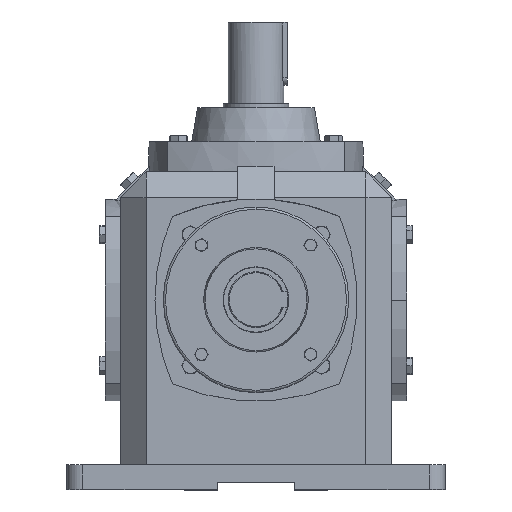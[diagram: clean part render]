
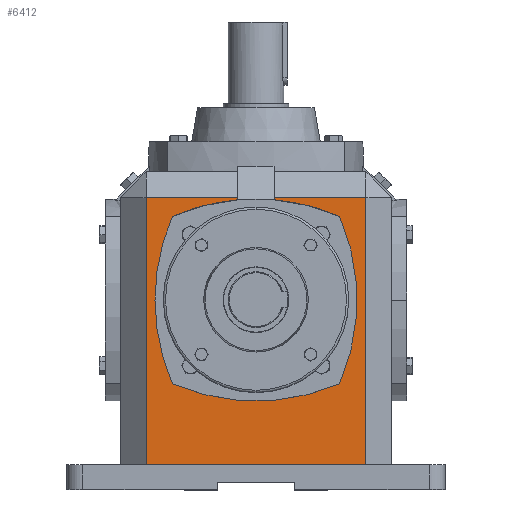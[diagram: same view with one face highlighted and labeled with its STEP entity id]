
A CAD part, top view. The second image highlights one B-rep face of the part: STEP entity #6412.
In plain terms, the highlighted planar face has unit normal (0, 0, 1).
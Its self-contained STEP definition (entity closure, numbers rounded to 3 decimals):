
#60 = VECTOR ( 'NONE', #8926, 1000. ) ;
#177 = EDGE_CURVE ( 'NONE', #1978, #12997, #16885, .T. ) ;
#341 = CARTESIAN_POINT ( 'NONE',  ( 142.2, -213., 175.5 ) ) ;
#706 = CARTESIAN_POINT ( 'NONE',  ( 0., 140., 175.5 ) ) ;
#1119 = DIRECTION ( 'NONE',  ( 0., 0., 1. ) ) ;
#1275 = ORIENTED_EDGE ( 'NONE', *, *, #12081, .F. ) ;
#1533 = CARTESIAN_POINT ( 'NONE',  ( -130.7, 0., 175.5 ) ) ;
#1925 = ORIENTED_EDGE ( 'NONE', *, *, #2854, .T. ) ;
#1951 = LINE ( 'NONE', #16652, #6652 ) ;
#1978 = VERTEX_POINT ( 'NONE', #341 ) ;
#1984 = AXIS2_PLACEMENT_3D ( 'NONE', #16746, #1119, #14141 ) ;
#2233 = DIRECTION ( 'NONE',  ( 0., -1., 0. ) ) ;
#2279 = ORIENTED_EDGE ( 'NONE', *, *, #6815, .T. ) ;
#2368 = VECTOR ( 'NONE', #10579, 1000. ) ;
#2813 = AXIS2_PLACEMENT_3D ( 'NONE', #16264, #11933, #13343 ) ;
#2854 = EDGE_CURVE ( 'NONE', #7943, #15751, #1951, .T. ) ;
#3204 = ORIENTED_EDGE ( 'NONE', *, *, #6566, .T. ) ;
#3671 = LINE ( 'NONE', #6288, #6554 ) ;
#3746 = VERTEX_POINT ( 'NONE', #18684 ) ;
#3778 = CARTESIAN_POINT ( 'NONE',  ( -108.155, -108.155, 175.5 ) ) ;
#3862 = AXIS2_PLACEMENT_3D ( 'NONE', #11461, #14411, #8753 ) ;
#4083 = CARTESIAN_POINT ( 'NONE',  ( 23.31, 129.695, 175.5 ) ) ;
#4194 = VERTEX_POINT ( 'NONE', #3778 ) ;
#4199 = DIRECTION ( 'NONE',  ( -1., 0., 0. ) ) ;
#4220 = CARTESIAN_POINT ( 'NONE',  ( -175.5, 132.7, 175.5 ) ) ;
#4293 = VERTEX_POINT ( 'NONE', #4083 ) ;
#4299 = AXIS2_PLACEMENT_3D ( 'NONE', #17282, #15705, #4199 ) ;
#4478 = EDGE_CURVE ( 'NONE', #3746, #4293, #11910, .T. ) ;
#4720 = VERTEX_POINT ( 'NONE', #1533 ) ;
#5010 = ORIENTED_EDGE ( 'NONE', *, *, #14087, .F. ) ;
#5537 = CARTESIAN_POINT ( 'NONE',  ( -175.5, 132.7, 175.5 ) ) ;
#5559 = CIRCLE ( 'NONE', #3862, 270.7 ) ;
#5692 = CARTESIAN_POINT ( 'NONE',  ( 0., -140., 175.5 ) ) ;
#5773 = CARTESIAN_POINT ( 'NONE',  ( -140., 0., 175.5 ) ) ;
#5873 = ORIENTED_EDGE ( 'NONE', *, *, #15202, .T. ) ;
#6288 = CARTESIAN_POINT ( 'NONE',  ( -175.5, -213., 175.5 ) ) ;
#6362 = LINE ( 'NONE', #4220, #60 ) ;
#6412 = ADVANCED_FACE ( 'NONE', ( #13620 ), #12929, .F. ) ;
#6554 = VECTOR ( 'NONE', #13478, 1000. ) ;
#6566 = EDGE_CURVE ( 'NONE', #15751, #1978, #3671, .T. ) ;
#6651 = VERTEX_POINT ( 'NONE', #13547 ) ;
#6652 = VECTOR ( 'NONE', #2233, 1000. ) ;
#6815 = EDGE_CURVE ( 'NONE', #12997, #3746, #11371, .T. ) ;
#6898 = CARTESIAN_POINT ( 'NONE',  ( -23.31, 166., 175.5 ) ) ;
#6920 = VERTEX_POINT ( 'NONE', #10482 ) ;
#7379 = EDGE_CURVE ( 'NONE', #4194, #6651, #18304, .T. ) ;
#7524 = CARTESIAN_POINT ( 'NONE',  ( 142.2, 132.7, 175.5 ) ) ;
#7609 = ORIENTED_EDGE ( 'NONE', *, *, #4478, .T. ) ;
#7689 = VECTOR ( 'NONE', #11665, 1000. ) ;
#7827 = AXIS2_PLACEMENT_3D ( 'NONE', #5773, #10358, #15935 ) ;
#7943 = VERTEX_POINT ( 'NONE', #18409 ) ;
#7949 = CARTESIAN_POINT ( 'NONE',  ( -108.155, 108.155, 175.5 ) ) ;
#8736 = VERTEX_POINT ( 'NONE', #8940 ) ;
#8753 = DIRECTION ( 'NONE',  ( 1., 0., 0. ) ) ;
#8789 = CARTESIAN_POINT ( 'NONE',  ( 23.31, 166., 175.5 ) ) ;
#8792 = DIRECTION ( 'NONE',  ( 0., 1., 0. ) ) ;
#8800 = DIRECTION ( 'NONE',  ( 1., 0., 0. ) ) ;
#8926 = DIRECTION ( 'NONE',  ( -1., 0., 0. ) ) ;
#8940 = CARTESIAN_POINT ( 'NONE',  ( 108.155, 108.155, 175.5 ) ) ;
#9196 = CIRCLE ( 'NONE', #16477, 270.7 ) ;
#9402 = DIRECTION ( 'NONE',  ( 1., 0., 0. ) ) ;
#9465 = DIRECTION ( 'NONE',  ( 0., 0., 1. ) ) ;
#9551 = VERTEX_POINT ( 'NONE', #9844 ) ;
#9844 = CARTESIAN_POINT ( 'NONE',  ( -23.31, 132.7, 175.5 ) ) ;
#9973 = EDGE_CURVE ( 'NONE', #6920, #16852, #9196, .T. ) ;
#10122 = VECTOR ( 'NONE', #12772, 1000. ) ;
#10204 = EDGE_CURVE ( 'NONE', #4720, #4194, #5559, .T. ) ;
#10358 = DIRECTION ( 'NONE',  ( 0., 0., 1. ) ) ;
#10482 = CARTESIAN_POINT ( 'NONE',  ( -23.31, 129.695, 175.5 ) ) ;
#10579 = DIRECTION ( 'NONE',  ( 0., -1., 0. ) ) ;
#11046 = EDGE_CURVE ( 'NONE', #6651, #8736, #15900, .T. ) ;
#11269 = LINE ( 'NONE', #6898, #10122 ) ;
#11371 = LINE ( 'NONE', #5537, #7689 ) ;
#11461 = CARTESIAN_POINT ( 'NONE',  ( 140., 0., 175.5 ) ) ;
#11542 = CIRCLE ( 'NONE', #1984, 270.7 ) ;
#11665 = DIRECTION ( 'NONE',  ( -1., 0., 0. ) ) ;
#11910 = LINE ( 'NONE', #8789, #2368 ) ;
#11933 = DIRECTION ( 'NONE',  ( 0., 0., 1. ) ) ;
#12081 = EDGE_CURVE ( 'NONE', #16852, #4720, #15173, .T. ) ;
#12122 = ORIENTED_EDGE ( 'NONE', *, *, #177, .T. ) ;
#12772 = DIRECTION ( 'NONE',  ( 0., 1., 0. ) ) ;
#12929 = PLANE ( 'NONE',  #4299 ) ;
#12997 = VERTEX_POINT ( 'NONE', #7524 ) ;
#13017 = ORIENTED_EDGE ( 'NONE', *, *, #18430, .T. ) ;
#13343 = DIRECTION ( 'NONE',  ( 1., 0., 0. ) ) ;
#13478 = DIRECTION ( 'NONE',  ( 1., 0., 0. ) ) ;
#13547 = CARTESIAN_POINT ( 'NONE',  ( 108.155, -108.155, 175.5 ) ) ;
#13620 = FACE_OUTER_BOUND ( 'NONE', #17285, .T. ) ;
#14087 = EDGE_CURVE ( 'NONE', #8736, #4293, #11542, .T. ) ;
#14141 = DIRECTION ( 'NONE',  ( 1., 0., 0. ) ) ;
#14399 = VECTOR ( 'NONE', #8792, 1000. ) ;
#14411 = DIRECTION ( 'NONE',  ( 0., 0., 1. ) ) ;
#14587 = ORIENTED_EDGE ( 'NONE', *, *, #10204, .F. ) ;
#15173 = CIRCLE ( 'NONE', #2813, 270.7 ) ;
#15202 = EDGE_CURVE ( 'NONE', #6920, #9551, #11269, .T. ) ;
#15705 = DIRECTION ( 'NONE',  ( 0., 0., -1. ) ) ;
#15751 = VERTEX_POINT ( 'NONE', #15975 ) ;
#15785 = DIRECTION ( 'NONE',  ( 0., 0., 1. ) ) ;
#15900 = CIRCLE ( 'NONE', #7827, 270.7 ) ;
#15935 = DIRECTION ( 'NONE',  ( 1., 0., 0. ) ) ;
#15975 = CARTESIAN_POINT ( 'NONE',  ( -142.2, -213., 175.5 ) ) ;
#16264 = CARTESIAN_POINT ( 'NONE',  ( 140., 0., 175.5 ) ) ;
#16477 = AXIS2_PLACEMENT_3D ( 'NONE', #5692, #15785, #8800 ) ;
#16637 = ORIENTED_EDGE ( 'NONE', *, *, #7379, .F. ) ;
#16652 = CARTESIAN_POINT ( 'NONE',  ( -142.2, 166., 175.5 ) ) ;
#16746 = CARTESIAN_POINT ( 'NONE',  ( 0., -140., 175.5 ) ) ;
#16852 = VERTEX_POINT ( 'NONE', #7949 ) ;
#16885 = LINE ( 'NONE', #17477, #14399 ) ;
#17282 = CARTESIAN_POINT ( 'NONE',  ( -175.5, 166., 175.5 ) ) ;
#17285 = EDGE_LOOP ( 'NONE', ( #17996, #5873, #13017, #1925, #3204, #12122, #2279, #7609, #5010, #18621, #16637, #14587, #1275 ) ) ;
#17477 = CARTESIAN_POINT ( 'NONE',  ( 142.2, 166., 175.5 ) ) ;
#17996 = ORIENTED_EDGE ( 'NONE', *, *, #9973, .F. ) ;
#18304 = CIRCLE ( 'NONE', #18694, 270.7 ) ;
#18409 = CARTESIAN_POINT ( 'NONE',  ( -142.2, 132.7, 175.5 ) ) ;
#18430 = EDGE_CURVE ( 'NONE', #9551, #7943, #6362, .T. ) ;
#18621 = ORIENTED_EDGE ( 'NONE', *, *, #11046, .F. ) ;
#18684 = CARTESIAN_POINT ( 'NONE',  ( 23.31, 132.7, 175.5 ) ) ;
#18694 = AXIS2_PLACEMENT_3D ( 'NONE', #706, #9465, #9402 ) ;
